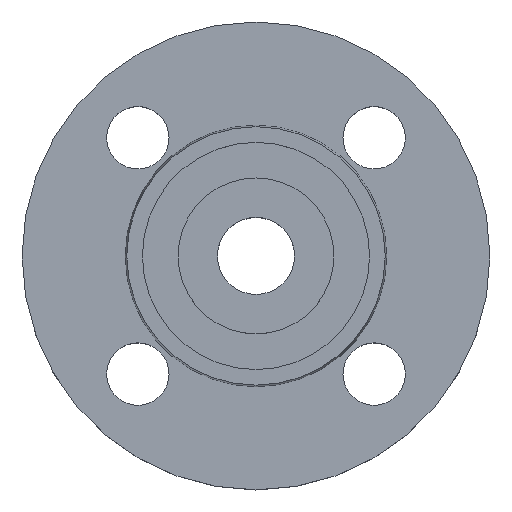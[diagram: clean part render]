
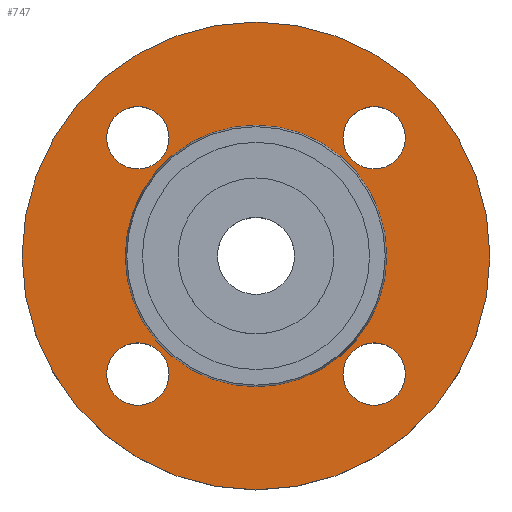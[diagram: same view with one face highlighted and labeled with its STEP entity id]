
A CAD part, top view. The second image highlights one B-rep face of the part: STEP entity #747.
In plain terms, the highlighted planar face has unit normal (0, 0, 1).
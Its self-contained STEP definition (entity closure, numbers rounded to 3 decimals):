
#5 = CARTESIAN_POINT ( 'NONE',  ( 26.517, -26.517, -2. ) ) ;
#15 = AXIS2_PLACEMENT_3D ( 'NONE', #210, #839, #217 ) ;
#18 = CIRCLE ( 'NONE', #763, 7. ) ;
#19 = EDGE_CURVE ( 'NONE', #708, #674, #345, .T. ) ;
#21 = CIRCLE ( 'NONE', #783, 7. ) ;
#29 = CIRCLE ( 'NONE', #34, 7. ) ;
#34 = AXIS2_PLACEMENT_3D ( 'NONE', #5, #561, #112 ) ;
#37 = CARTESIAN_POINT ( 'NONE',  ( 19.517, 26.517, -2. ) ) ;
#61 = CARTESIAN_POINT ( 'NONE',  ( -33.517, 26.517, -2. ) ) ;
#62 = FACE_BOUND ( 'NONE', #787, .T. ) ;
#70 = CARTESIAN_POINT ( 'NONE',  ( 29.353, 0., -2. ) ) ;
#80 = CARTESIAN_POINT ( 'NONE',  ( -19.517, -26.517, -2. ) ) ;
#86 = CARTESIAN_POINT ( 'NONE',  ( -19.517, 26.517, -2. ) ) ;
#89 = DIRECTION ( 'NONE',  ( 0., 0., -1. ) ) ;
#91 = CARTESIAN_POINT ( 'NONE',  ( -52.5, 0., -2. ) ) ;
#93 = CARTESIAN_POINT ( 'NONE',  ( -26.517, -26.517, -2. ) ) ;
#101 = DIRECTION ( 'NONE',  ( 1., 0., 0. ) ) ;
#103 = DIRECTION ( 'NONE',  ( 0., 0., -1. ) ) ;
#104 = CARTESIAN_POINT ( 'NONE',  ( 26.517, 26.517, -2. ) ) ;
#110 = DIRECTION ( 'NONE',  ( 1., 0., 0. ) ) ;
#112 = DIRECTION ( 'NONE',  ( 1., 0., 0. ) ) ;
#117 = CARTESIAN_POINT ( 'NONE',  ( 26.517, 26.517, -2. ) ) ;
#129 = EDGE_CURVE ( 'NONE', #690, #668, #490, .T. ) ;
#146 = AXIS2_PLACEMENT_3D ( 'NONE', #388, #387, #385 ) ;
#150 = CARTESIAN_POINT ( 'NONE',  ( 33.517, 26.517, -2. ) ) ;
#152 = CARTESIAN_POINT ( 'NONE',  ( -26.517, -26.517, -2. ) ) ;
#158 = DIRECTION ( 'NONE',  ( 0., 0., -1. ) ) ;
#161 = CARTESIAN_POINT ( 'NONE',  ( -33.517, -26.517, -2. ) ) ;
#180 = CIRCLE ( 'NONE', #621, 7. ) ;
#184 = EDGE_CURVE ( 'NONE', #674, #708, #685, .T. ) ;
#185 = CARTESIAN_POINT ( 'NONE',  ( 33.517, -26.517, -2. ) ) ;
#190 = VERTEX_POINT ( 'NONE', #381 ) ;
#210 = CARTESIAN_POINT ( 'NONE',  ( 26.517, -26.517, -2. ) ) ;
#217 = DIRECTION ( 'NONE',  ( 1., 0., 0. ) ) ;
#221 = DIRECTION ( 'NONE',  ( 0., 0., 1. ) ) ;
#234 = DIRECTION ( 'NONE',  ( 0., 0., -1. ) ) ;
#264 = AXIS2_PLACEMENT_3D ( 'NONE', #826, #158, #439 ) ;
#266 = DIRECTION ( 'NONE',  ( -1., 0., 0. ) ) ;
#267 = DIRECTION ( 'NONE',  ( 0., 0., -1. ) ) ;
#269 = CARTESIAN_POINT ( 'NONE',  ( 0., 0., -2. ) ) ;
#284 = FACE_OUTER_BOUND ( 'NONE', #693, .T. ) ;
#325 = AXIS2_PLACEMENT_3D ( 'NONE', #461, #460, #459 ) ;
#332 = EDGE_CURVE ( 'NONE', #784, #699, #601, .T. ) ;
#345 = CIRCLE ( 'NONE', #325, 7. ) ;
#351 = FACE_BOUND ( 'NONE', #700, .T. ) ;
#381 = CARTESIAN_POINT ( 'NONE',  ( 19.517, -26.517, -2. ) ) ;
#385 = DIRECTION ( 'NONE',  ( 1., 0., 0. ) ) ;
#387 = DIRECTION ( 'NONE',  ( 0., 0., -1. ) ) ;
#388 = CARTESIAN_POINT ( 'NONE',  ( -26.517, 26.517, -2. ) ) ;
#393 = CIRCLE ( 'NONE', #396, 29.353 ) ;
#396 = AXIS2_PLACEMENT_3D ( 'NONE', #851, #234, #515 ) ;
#397 = CIRCLE ( 'NONE', #264, 52.5 ) ;
#433 = DIRECTION ( 'NONE',  ( -1., 0., 0. ) ) ;
#434 = DIRECTION ( 'NONE',  ( 0., 0., -1. ) ) ;
#436 = DIRECTION ( 'NONE',  ( 0., 0., -1. ) ) ;
#437 = CARTESIAN_POINT ( 'NONE',  ( 0., 0., -2. ) ) ;
#439 = DIRECTION ( 'NONE',  ( -1., 0., 0. ) ) ;
#443 = AXIS2_PLACEMENT_3D ( 'NONE', #848, #221, #498 ) ;
#445 = CIRCLE ( 'NONE', #15, 7. ) ;
#459 = DIRECTION ( 'NONE',  ( 1., 0., 0. ) ) ;
#460 = DIRECTION ( 'NONE',  ( 0., 0., -1. ) ) ;
#461 = CARTESIAN_POINT ( 'NONE',  ( -26.517, 26.517, -2. ) ) ;
#473 = VERTEX_POINT ( 'NONE', #150 ) ;
#489 = EDGE_CURVE ( 'NONE', #473, #728, #831, .T. ) ;
#490 = CIRCLE ( 'NONE', #725, 52.5 ) ;
#498 = DIRECTION ( 'NONE',  ( 1., 0., 0. ) ) ;
#513 = EDGE_CURVE ( 'NONE', #696, #670, #180, .T. ) ;
#515 = DIRECTION ( 'NONE',  ( -1., 0., 0. ) ) ;
#531 = ORIENTED_EDGE ( 'NONE', *, *, #657, .T. ) ;
#534 = ORIENTED_EDGE ( 'NONE', *, *, #872, .T. ) ;
#535 = ORIENTED_EDGE ( 'NONE', *, *, #513, .T. ) ;
#536 = ORIENTED_EDGE ( 'NONE', *, *, #809, .T. ) ;
#537 = ORIENTED_EDGE ( 'NONE', *, *, #184, .T. ) ;
#540 = ORIENTED_EDGE ( 'NONE', *, *, #19, .T. ) ;
#541 = ORIENTED_EDGE ( 'NONE', *, *, #489, .T. ) ;
#542 = ORIENTED_EDGE ( 'NONE', *, *, #877, .T. ) ;
#543 = ORIENTED_EDGE ( 'NONE', *, *, #332, .T. ) ;
#545 = ORIENTED_EDGE ( 'NONE', *, *, #820, .T. ) ;
#546 = ORIENTED_EDGE ( 'NONE', *, *, #828, .F. ) ;
#547 = ORIENTED_EDGE ( 'NONE', *, *, #129, .F. ) ;
#561 = DIRECTION ( 'NONE',  ( 0., 0., -1. ) ) ;
#572 = EDGE_LOOP ( 'NONE', ( #531, #534 ) ) ;
#589 = PLANE ( 'NONE',  #443 ) ;
#599 = AXIS2_PLACEMENT_3D ( 'NONE', #269, #267, #266 ) ;
#601 = CIRCLE ( 'NONE', #599, 29.353 ) ;
#621 = AXIS2_PLACEMENT_3D ( 'NONE', #93, #89, #110 ) ;
#623 = EDGE_LOOP ( 'NONE', ( #541, #542 ) ) ;
#628 = DIRECTION ( 'NONE',  ( 1., 0., 0. ) ) ;
#657 = EDGE_CURVE ( 'NONE', #672, #190, #445, .T. ) ;
#668 = VERTEX_POINT ( 'NONE', #847 ) ;
#670 = VERTEX_POINT ( 'NONE', #161 ) ;
#671 = EDGE_LOOP ( 'NONE', ( #543, #545 ) ) ;
#672 = VERTEX_POINT ( 'NONE', #185 ) ;
#674 = VERTEX_POINT ( 'NONE', #86 ) ;
#681 = FACE_BOUND ( 'NONE', #623, .T. ) ;
#685 = CIRCLE ( 'NONE', #146, 7. ) ;
#690 = VERTEX_POINT ( 'NONE', #91 ) ;
#693 = EDGE_LOOP ( 'NONE', ( #546, #547 ) ) ;
#696 = VERTEX_POINT ( 'NONE', #80 ) ;
#699 = VERTEX_POINT ( 'NONE', #70 ) ;
#700 = EDGE_LOOP ( 'NONE', ( #537, #540 ) ) ;
#701 = AXIS2_PLACEMENT_3D ( 'NONE', #104, #103, #101 ) ;
#708 = VERTEX_POINT ( 'NONE', #61 ) ;
#725 = AXIS2_PLACEMENT_3D ( 'NONE', #437, #434, #433 ) ;
#728 = VERTEX_POINT ( 'NONE', #37 ) ;
#747 = ADVANCED_FACE ( 'NONE', ( #772, #62, #351, #681, #873, #284 ), #589, .T. ) ;
#763 = AXIS2_PLACEMENT_3D ( 'NONE', #152, #436, #790 ) ;
#772 = FACE_BOUND ( 'NONE', #572, .T. ) ;
#783 = AXIS2_PLACEMENT_3D ( 'NONE', #117, #866, #628 ) ;
#784 = VERTEX_POINT ( 'NONE', #822 ) ;
#787 = EDGE_LOOP ( 'NONE', ( #535, #536 ) ) ;
#790 = DIRECTION ( 'NONE',  ( 1., 0., 0. ) ) ;
#809 = EDGE_CURVE ( 'NONE', #670, #696, #18, .T. ) ;
#820 = EDGE_CURVE ( 'NONE', #699, #784, #393, .T. ) ;
#822 = CARTESIAN_POINT ( 'NONE',  ( -29.353, 0., -2. ) ) ;
#826 = CARTESIAN_POINT ( 'NONE',  ( 0., 0., -2. ) ) ;
#828 = EDGE_CURVE ( 'NONE', #668, #690, #397, .T. ) ;
#831 = CIRCLE ( 'NONE', #701, 7. ) ;
#839 = DIRECTION ( 'NONE',  ( 0., 0., -1. ) ) ;
#847 = CARTESIAN_POINT ( 'NONE',  ( 52.5, 0., -2. ) ) ;
#848 = CARTESIAN_POINT ( 'NONE',  ( 29.353, 0., -2. ) ) ;
#851 = CARTESIAN_POINT ( 'NONE',  ( 0., 0., -2. ) ) ;
#866 = DIRECTION ( 'NONE',  ( 0., 0., -1. ) ) ;
#872 = EDGE_CURVE ( 'NONE', #190, #672, #29, .T. ) ;
#873 = FACE_BOUND ( 'NONE', #671, .T. ) ;
#877 = EDGE_CURVE ( 'NONE', #728, #473, #21, .T. ) ;
